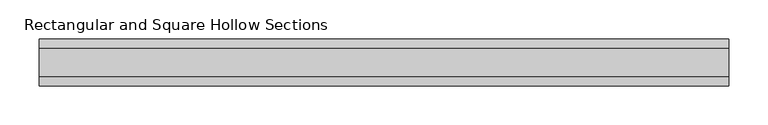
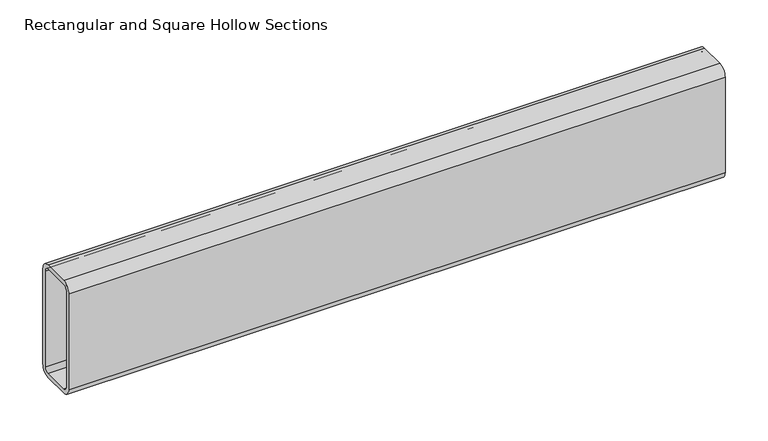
"""IFC4 building model written with IfcOpenShell, lengths in millimetres: beam geometry, Rectangular and Square Hollow Sections : TREC160x60x6."""

from ifc_helpers import new_model, si_unit, point, frame, frame_2d, origin, place, context, project, spatial, polyline, circle_curve, trimmed, segment, composite_curve, outline, extrude, source, transform, mapped, element, save


def rectangular_and_square_hollow_sections_653a560d(model_context):
    return source(origin(), model_context, "Body", "SweptSolid", [
        extrude(outline(composite_curve([segment(polyline([(30.0, 68.0), (30.0, -68.0)]), True, "CONTINUOUS"), segment(trimmed(circle_curve(frame_2d((18.0, -68.0)), 12.0), [point((30.0, -68.0))], [point((18.0, -80.0))], False, "CARTESIAN"), True, "CONTINUOUS"), segment(polyline([(18.0, -80.0), (-18.0, -80.0)]), True, "CONTINUOUS"), segment(trimmed(circle_curve(frame_2d((-18.0, -68.0)), 12.0), [point((-18.0, -80.0))], [point((-30.0, -68.0))], False, "CARTESIAN"), True, "CONTINUOUS"), segment(polyline([(-30.0, -68.0), (-30.0, 68.0)]), True, "CONTINUOUS"), segment(trimmed(circle_curve(frame_2d((-18.0, 68.0)), 12.0), [point((-30.0, 68.0))], [point((-18.0, 80.0))], False, "CARTESIAN"), True, "CONTINUOUS"), segment(polyline([(-18.0, 80.0), (18.0, 80.0)]), True, "CONTINUOUS"), segment(trimmed(circle_curve(frame_2d((18.0, 68.0)), 12.0), [point((18.0, 80.0))], [point((30.0, 68.0))], False, "CARTESIAN"), True, "CONTINUOUS")], self_intersect=False), holes=[composite_curve([segment(trimmed(circle_curve(frame_2d((-18.0, 68.0)), 6.0), [point((-18.0, 74.0))], [point((-24.0, 68.0))], True, "CARTESIAN"), True, "CONTINUOUS"), segment(polyline([(-24.0, 68.0), (-24.0, -68.0)]), True, "CONTINUOUS"), segment(trimmed(circle_curve(frame_2d((-18.0, -68.0)), 6.0), [point((-24.0, -68.0))], [point((-18.0, -74.0))], True, "CARTESIAN"), True, "CONTINUOUS"), segment(polyline([(-18.0, -74.0), (18.0, -74.0)]), True, "CONTINUOUS"), segment(trimmed(circle_curve(frame_2d((18.0, -68.0)), 6.0), [point((18.0, -74.0))], [point((24.0, -68.0))], True, "CARTESIAN"), True, "CONTINUOUS"), segment(polyline([(24.0, -68.0), (24.0, 68.0)]), True, "CONTINUOUS"), segment(trimmed(circle_curve(frame_2d((18.0, 68.0)), 6.0), [point((24.0, 68.0))], [point((18.0, 74.0))], True, "CARTESIAN"), True, "CONTINUOUS"), segment(polyline([(18.0, 74.0), (-18.0, 74.0)]), True, "CONTINUOUS")], self_intersect=False)]), frame((-441.5, 0.0, 0.0), z_axis=(1.0, 0.0, 0.0), x_axis=(0.0, 1.0, 0.0)), (0.0, 0.0, 1.0), 882.0),
    ])


if __name__ == "__main__":
    model = new_model("IFC4")
    model_context = context("Model", 3, world=origin())
    ifc_project = project(units=[si_unit("LENGTHUNIT", "METRE", prefix="MILLI")], contexts=[model_context])
    site = spatial("IfcSite", under=ifc_project)
    building = spatial("IfcBuilding", under=site)
    placement = place(None, origin())
    rectangular_and_square_hollow_sections_shape = rectangular_and_square_hollow_sections_653a560d(model_context)
    element("IfcBeam", 1, ObjectType="Rectangular and Square Hollow Sections : TREC160x60x6", at=placement, inside=building, context=model_context, shape_type="MappedRepresentation", body=[
        mapped(rectangular_and_square_hollow_sections_shape, transform((0.0, 0.0, 0.0), x_axis=(1.0, 0.0, 0.0), y_axis=(0.0, 1.0, 0.0), z_axis=(0.0, 0.0, 1.0))),
    ])
    save(model, "model.ifc")
